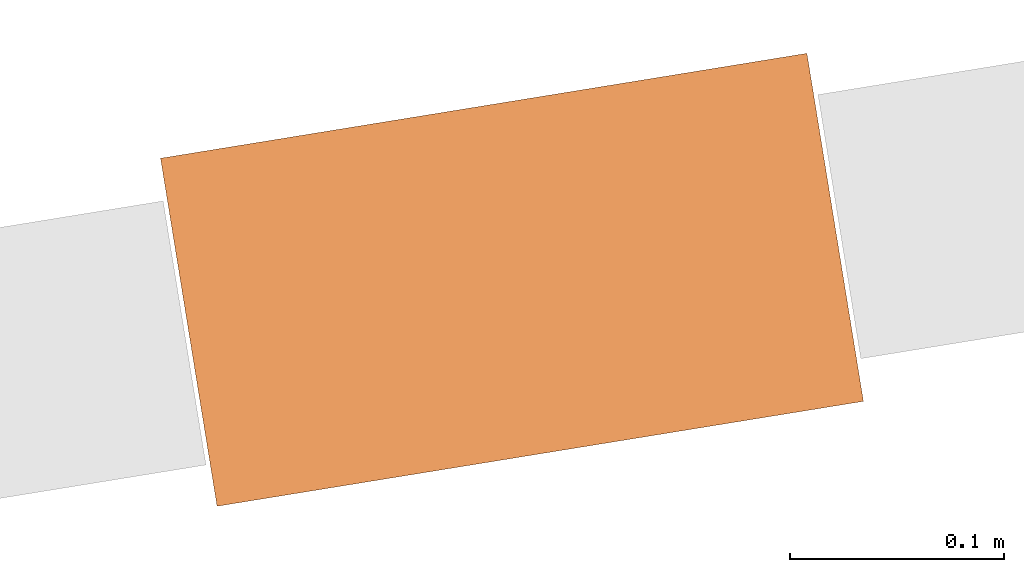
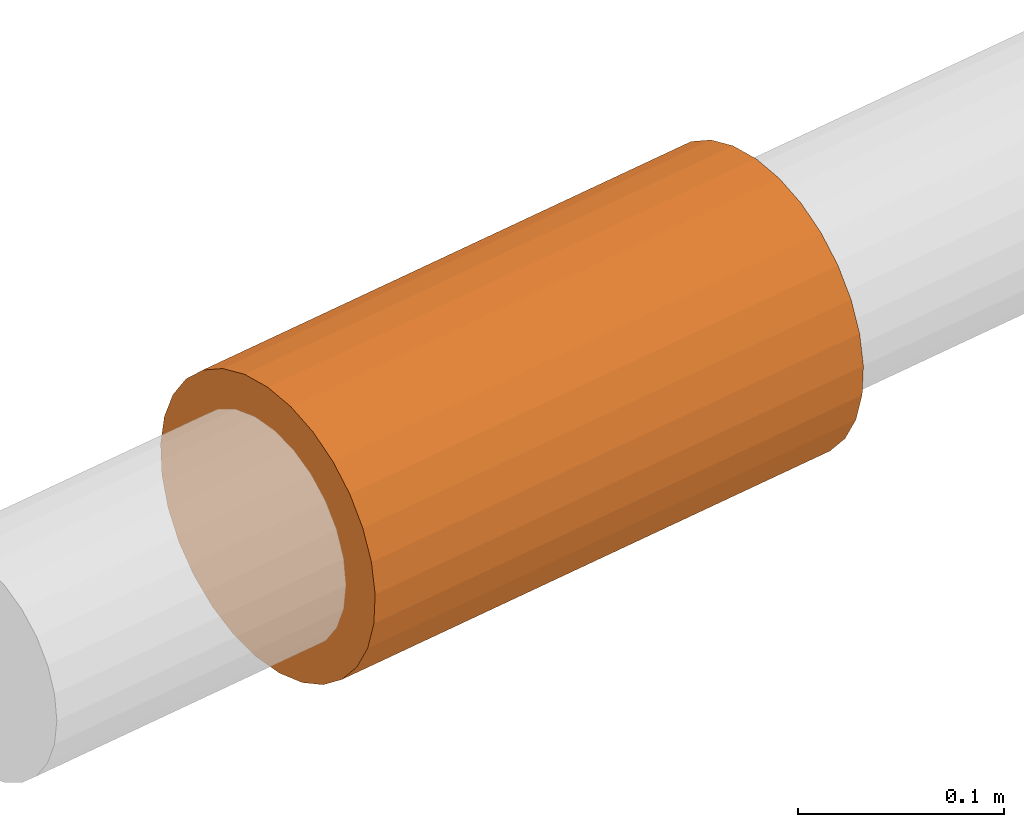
# One storey, part 2 of 2: 1 proxy.
"""IFC2X3 building model written with IfcOpenShell, lengths in millimetres."""

from ifc_helpers import new_model, entity, si_unit, converted_unit, derived_unit, direction, frame, frame_2d, origin, origin_with_axes, place, context, subcontext, project, spatial, circle, extrude, source, transform, mapped, material, type_object, element, save


model = new_model("IFC2X3")

# Units and contexts
plan_context = context("Plan", 3, precision=1e-05, world=origin_with_axes())
model_context = context("Model", 3, precision=0.01, world=origin(), true_north=direction((6.12323399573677e-17, 1.0)))
body_context = subcontext(model_context, "Body", "Model", "MODEL_VIEW")
ifc_project = project(units=[converted_unit("PLANEANGLEUNIT", "DEGREE", entity("IfcPositiveLengthMeasure", 0.0174532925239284), si_unit("PLANEANGLEUNIT", "RADIAN"), dimensions=[0, 0, 0, 0, 0, 0, 0]), si_unit("AREAUNIT", "SQUARE_METRE"), si_unit("LENGTHUNIT", "METRE", prefix="MILLI"), si_unit("MASSUNIT", "GRAM", prefix="KILO"), si_unit("POWERUNIT", "WATT"), si_unit("PRESSUREUNIT", "PASCAL", prefix="KILO"), si_unit("FORCEUNIT", "NEWTON", prefix="KILO"), si_unit("ELECTRICVOLTAGEUNIT", "VOLT"), si_unit("ELECTRICCURRENTUNIT", "AMPERE"), si_unit("THERMODYNAMICTEMPERATUREUNIT", "DEGREE_CELSIUS"), si_unit("TIMEUNIT", "SECOND"), si_unit("VOLUMEUNIT", "CUBIC_METRE"), derived_unit("LINEARVELOCITYUNIT", [(si_unit("LENGTHUNIT", "METRE"), 1), (si_unit("TIMEUNIT", "SECOND"), -1)]), derived_unit("VOLUMETRICFLOWRATEUNIT", [(si_unit("VOLUMEUNIT", "CUBIC_METRE"), 1), (si_unit("TIMEUNIT", "SECOND"), -1)]), derived_unit("THERMALTRANSMITTANCEUNIT", [(si_unit("POWERUNIT", "WATT"), 1), (si_unit("THERMODYNAMICTEMPERATUREUNIT", "KELVIN"), -1), (si_unit("AREAUNIT", "SQUARE_METRE"), -1)]), derived_unit("SOUNDPRESSUREUNIT", [(si_unit("PRESSUREUNIT", "PASCAL"), 1)])], contexts=[model_context, plan_context])

# Site, building, storey
site_placement = place(None, frame((-0.00071070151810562, 0.00438415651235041, 0.0), z_axis=(0.0, 0.0, 1.0), x_axis=(-0.160236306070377, 0.987078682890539, 0.0)))
site = spatial("IfcSite", under=ifc_project, at=site_placement, Name="Default", CompositionType="ELEMENT")
building_placement = place(site_placement, origin_with_axes())
building = spatial("IfcBuilding", under=site, at=building_placement, CompositionType="ELEMENT")
storey_placement = place(building_placement, frame((0.0, 0.0, 42100.0000000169), z_axis=(0.0, 0.0, 1.0), x_axis=(1.0, 0.0, 0.0)))
storey = spatial("IfcBuildingStorey", under=building, at=storey_placement, Name="Nivå A", CompositionType="ELEMENT", Elevation=42100.0000000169)

# Proxy
ifc_material = material(Name="<Unnamed>")
building_element_proxy_type = type_object("IfcBuildingElementProxyType", Name="LYDDEMPER -  - QL004T:LYDDEMPER - 125-300 - QL004T", PredefinedType="NOTDEFINED", material=ifc_material)
shared_shape = source(origin(), body_context, "Body", "SweptSolid", [
    extrude(circle(Radius=82.4999999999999, at=frame_2d((-4.09883246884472e-15, -1.33282427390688e-13), x_axis=(1.0, 0.0))), frame((-153.0, 0.0, 0.0), z_axis=(1.0, 0.0, 0.0), x_axis=(0.0, 0.0, 1.0)), (0.0, 0.0, 1.0), 306.0),
])
proxy_placement = place(storey_placement, frame((768695.275157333, -503434.562392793, 19649.9999999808), z_axis=(0.0, 0.0, 1.0), x_axis=(4.87097358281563e-08, 0.999999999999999, 0.0)))
element("IfcBuildingElementProxy", 1, at=proxy_placement, inside=storey, type_object=building_element_proxy_type, material=ifc_material, Name="LYDDEMPER -  - QL004T:LYDDEMPER - 125-300 - QL004T", ObjectType="LYDDEMPER -  - QL004T:LYDDEMPER - 125-300 - QL004T", context=body_context, shape_type="MappedRepresentation", body=[
    mapped(shared_shape, transform((0.0, 0.0, 0.0), scale=1.0)),
])

save(model, "model.ifc")
